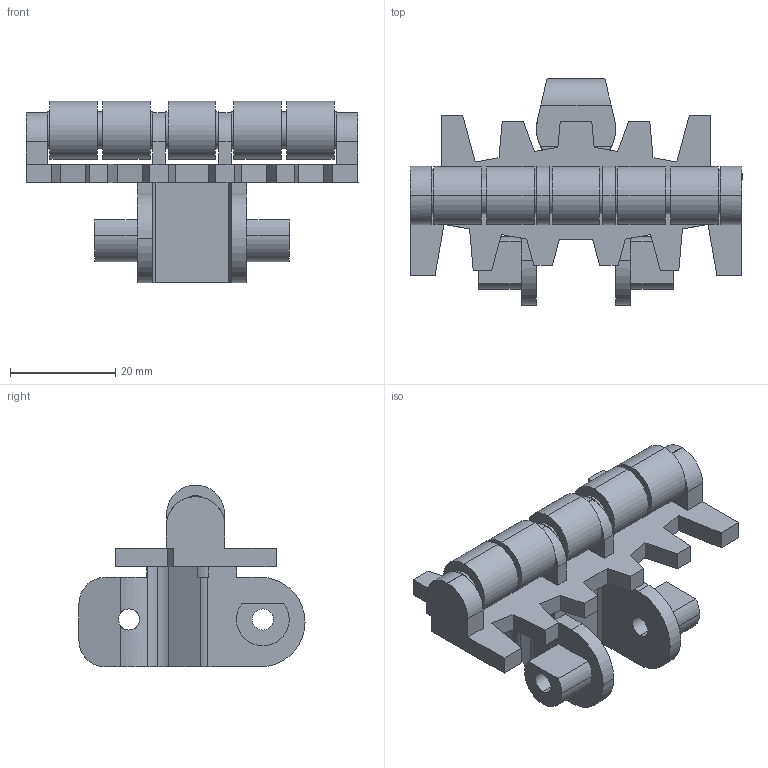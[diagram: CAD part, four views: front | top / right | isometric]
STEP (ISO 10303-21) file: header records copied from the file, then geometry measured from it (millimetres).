
FILE_DESCRIPTION (( 'STEP AP214' ), '1' );
FILE_NAME ('FSRT-5.STEP', '2011-04-14T11:14:00', ( '.' ), ( '' ), 'SwSTEP 2.0', 'SolidWorks 2010', '' );
FILE_SCHEMA (( 'AUTOMOTIVE_DESIGN' ));
Length unit declared in the file: millimetre
Products named in the file (1): FSRT-5
Bounding box: 63 x 42.9 x 34.5 mm (x, y, z)
Volume: 18726.9 mm3; surface area: 10884.2 mm2
Topology: 2 solids, 2 shells, 172 faces, 458 edges, 302 vertices
Faces by surface type: plane 110, cylinder 62
Entity records: 6482 total; most frequent: CARTESIAN_POINT 1047, ORIENTED_EDGE 916, DIRECTION 916, EDGE_CURVE 458, LINE 318, VECTOR 318, VERTEX_POINT 302, AXIS2_PLACEMENT_3D 299
